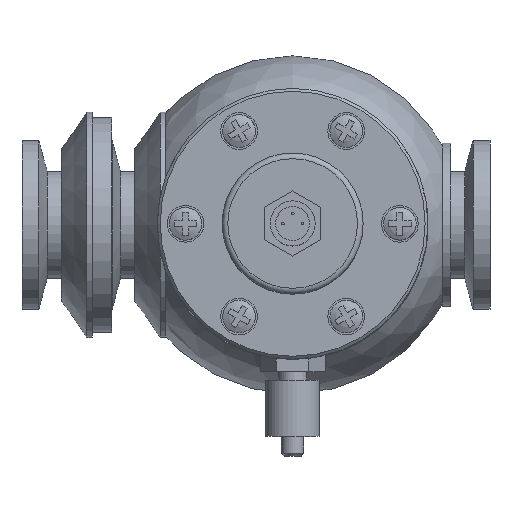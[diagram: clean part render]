
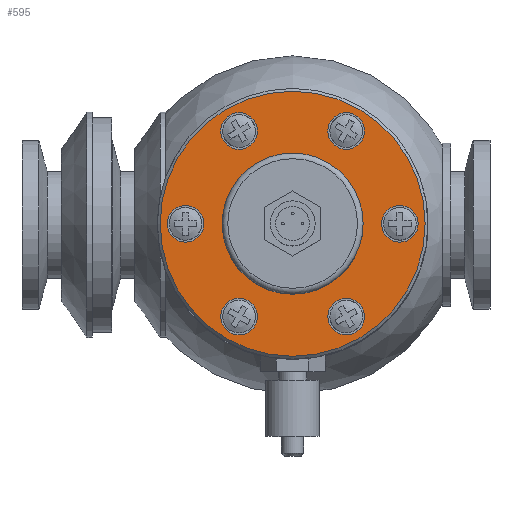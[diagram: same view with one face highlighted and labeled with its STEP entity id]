
A CAD part, top view. The second image highlights one B-rep face of the part: STEP entity #595.
In plain terms, the highlighted planar face has unit normal (0, 0, 1).
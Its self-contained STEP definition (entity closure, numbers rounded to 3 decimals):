
#595 = ADVANCED_FACE( '', ( #1143, #1144, #1145, #1146, #1147, #1148, #1149, #1150 ), #1151, .T. );
#1143 = FACE_BOUND( '', #1668, .T. );
#1144 = FACE_BOUND( '', #1669, .T. );
#1145 = FACE_BOUND( '', #1670, .T. );
#1146 = FACE_BOUND( '', #1671, .T. );
#1147 = FACE_BOUND( '', #1672, .T. );
#1148 = FACE_BOUND( '', #1673, .T. );
#1149 = FACE_OUTER_BOUND( '', #1674, .T. );
#1150 = FACE_BOUND( '', #1675, .T. );
#1151 = PLANE( '', #1676 );
#1668 = EDGE_LOOP( '', ( #2688 ) );
#1669 = EDGE_LOOP( '', ( #2689 ) );
#1670 = EDGE_LOOP( '', ( #2690 ) );
#1671 = EDGE_LOOP( '', ( #2691 ) );
#1672 = EDGE_LOOP( '', ( #2692 ) );
#1673 = EDGE_LOOP( '', ( #2693 ) );
#1674 = EDGE_LOOP( '', ( #2694 ) );
#1675 = EDGE_LOOP( '', ( #2695 ) );
#1676 = AXIS2_PLACEMENT_3D( '', #2696, #2697, #2698 );
#2688 = ORIENTED_EDGE( '', *, *, #2980, .T. );
#2689 = ORIENTED_EDGE( '', *, *, #2988, .T. );
#2690 = ORIENTED_EDGE( '', *, *, #2991, .T. );
#2691 = ORIENTED_EDGE( '', *, *, #2994, .T. );
#2692 = ORIENTED_EDGE( '', *, *, #2997, .T. );
#2693 = ORIENTED_EDGE( '', *, *, #2999, .T. );
#2694 = ORIENTED_EDGE( '', *, *, #2964, .T. );
#2695 = ORIENTED_EDGE( '', *, *, #3002, .T. );
#2696 = CARTESIAN_POINT( '', ( -24., 0., 12. ) );
#2697 = DIRECTION( '', ( 0., 0., 1. ) );
#2698 = DIRECTION( '', ( 1., 0., 0. ) );
#2964 = EDGE_CURVE( '', #3396, #3396, #3397, .T. );
#2980 = EDGE_CURVE( '', #3427, #3427, #3428, .T. );
#2988 = EDGE_CURVE( '', #3440, #3440, #3441, .T. );
#2991 = EDGE_CURVE( '', #3446, #3446, #3447, .T. );
#2994 = EDGE_CURVE( '', #3452, #3452, #3453, .T. );
#2997 = EDGE_CURVE( '', #3458, #3458, #3459, .T. );
#2999 = EDGE_CURVE( '', #3462, #3462, #3463, .T. );
#3002 = EDGE_CURVE( '', #3468, #3468, #3469, .T. );
#3396 = VERTEX_POINT( '', #4376 );
#3397 = CIRCLE( '', #4377, 23.5 );
#3427 = VERTEX_POINT( '', #4409 );
#3428 = CIRCLE( '', #4410, 3.25 );
#3440 = VERTEX_POINT( '', #4427 );
#3441 = CIRCLE( '', #4428, 3.25 );
#3446 = VERTEX_POINT( '', #4433 );
#3447 = CIRCLE( '', #4434, 3.25 );
#3452 = VERTEX_POINT( '', #4439 );
#3453 = CIRCLE( '', #4440, 3.25 );
#3458 = VERTEX_POINT( '', #4445 );
#3459 = CIRCLE( '', #4446, 3.25 );
#3462 = VERTEX_POINT( '', #4449 );
#3463 = CIRCLE( '', #4450, 3.25 );
#3468 = VERTEX_POINT( '', #4455 );
#3469 = CIRCLE( '', #4456, 12.5 );
#4376 = CARTESIAN_POINT( '', ( 23.5, 0., 12. ) );
#4377 = AXIS2_PLACEMENT_3D( '', #4872, #4873, #4874 );
#4409 = CARTESIAN_POINT( '', ( 9.5, 13.204, 12. ) );
#4410 = AXIS2_PLACEMENT_3D( '', #4916, #4917, #4918 );
#4427 = CARTESIAN_POINT( '', ( -9.5, 13.204, 12. ) );
#4428 = AXIS2_PLACEMENT_3D( '', #4930, #4931, #4932 );
#4433 = CARTESIAN_POINT( '', ( -19., -3.25, 12. ) );
#4434 = AXIS2_PLACEMENT_3D( '', #4939, #4940, #4941 );
#4439 = CARTESIAN_POINT( '', ( -9.5, -19.704, 12. ) );
#4440 = AXIS2_PLACEMENT_3D( '', #4948, #4949, #4950 );
#4445 = CARTESIAN_POINT( '', ( 9.5, -19.704, 12. ) );
#4446 = AXIS2_PLACEMENT_3D( '', #4957, #4958, #4959 );
#4449 = CARTESIAN_POINT( '', ( 19., -3.25, 12. ) );
#4450 = AXIS2_PLACEMENT_3D( '', #4963, #4964, #4965 );
#4455 = CARTESIAN_POINT( '', ( -12.5, 0., 12. ) );
#4456 = AXIS2_PLACEMENT_3D( '', #4972, #4973, #4974 );
#4872 = CARTESIAN_POINT( '', ( 0., 0., 12. ) );
#4873 = DIRECTION( '', ( 0., 0., 1. ) );
#4874 = DIRECTION( '', ( 1., 0., 0. ) );
#4916 = CARTESIAN_POINT( '', ( 9.5, 16.454, 12. ) );
#4917 = DIRECTION( '', ( 0., 0., -1. ) );
#4918 = DIRECTION( '', ( 0., -1., 0. ) );
#4930 = CARTESIAN_POINT( '', ( -9.5, 16.454, 12. ) );
#4931 = DIRECTION( '', ( 0., 0., -1. ) );
#4932 = DIRECTION( '', ( 0., -1., 0. ) );
#4939 = CARTESIAN_POINT( '', ( -19., 0., 12. ) );
#4940 = DIRECTION( '', ( 0., 0., -1. ) );
#4941 = DIRECTION( '', ( 0., -1., 0. ) );
#4948 = CARTESIAN_POINT( '', ( -9.5, -16.454, 12. ) );
#4949 = DIRECTION( '', ( 0., 0., -1. ) );
#4950 = DIRECTION( '', ( 0., -1., 0. ) );
#4957 = CARTESIAN_POINT( '', ( 9.5, -16.454, 12. ) );
#4958 = DIRECTION( '', ( 0., 0., -1. ) );
#4959 = DIRECTION( '', ( 0., -1., 0. ) );
#4963 = CARTESIAN_POINT( '', ( 19., 0., 12. ) );
#4964 = DIRECTION( '', ( 0., 0., -1. ) );
#4965 = DIRECTION( '', ( 0., -1., 0. ) );
#4972 = CARTESIAN_POINT( '', ( 0., 0., 12. ) );
#4973 = DIRECTION( '', ( 0., 0., -1. ) );
#4974 = DIRECTION( '', ( -1., 0., 0. ) );
